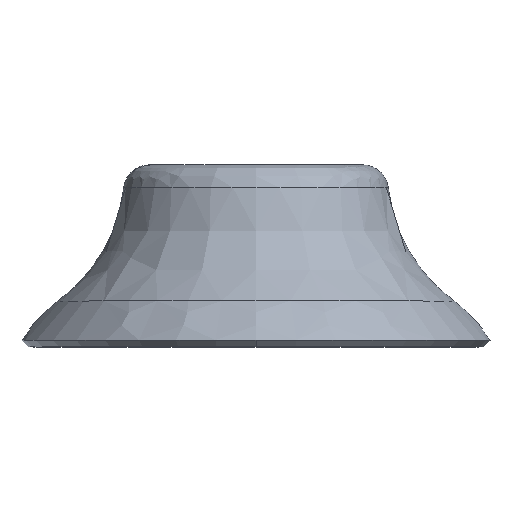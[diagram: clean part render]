
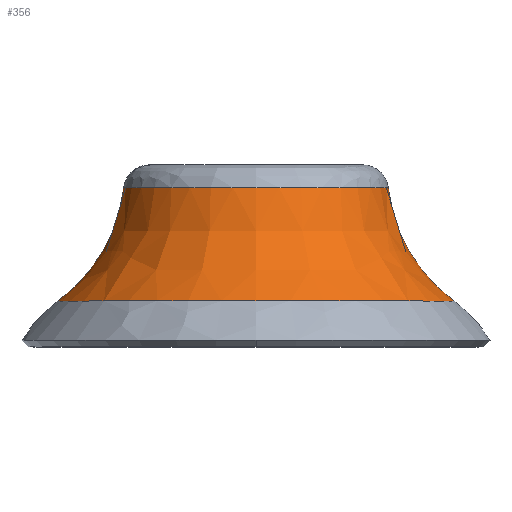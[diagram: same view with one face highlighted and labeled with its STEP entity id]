
A CAD part, top view. The second image highlights one B-rep face of the part: STEP entity #356.
In plain terms, the highlighted free-form (B-spline) face has degree [3, 3] with [4, 4] control points.
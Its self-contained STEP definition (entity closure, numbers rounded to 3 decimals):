
#1 = CARTESIAN_POINT ( 'NONE',  ( 0., -1.775, 0. ) ) ;
#24 = CARTESIAN_POINT ( 'NONE',  ( -10.179, -1.775, 0. ) ) ;
#30 = DIRECTION ( 'NONE',  ( 0., 0., -1. ) ) ;
#39 = AXIS2_PLACEMENT_3D ( 'NONE', #1, #557, #484 ) ;
#60 = VERTEX_POINT ( 'NONE', #24 ) ;
#84 = CARTESIAN_POINT ( 'NONE',  ( 12.419, -8.901, 0. ) ) ;
#104 = CARTESIAN_POINT ( 'NONE',  ( 10.179, -1.775, 0. ) ) ;
#135 = CARTESIAN_POINT ( 'NONE',  ( 16.299, -11.166, 32.597 ) ) ;
#139 = CARTESIAN_POINT ( 'NONE',  ( -12.419, -8.901, 0. ) ) ;
#149 =( BOUNDED_CURVE ( )  B_SPLINE_CURVE ( 3, ( #439, #856, #506, #190 ),
 .UNSPECIFIED., .F., .T. ) 
 B_SPLINE_CURVE_WITH_KNOTS ( ( 4, 4 ),
 ( 0.1, 0.9 ),
 .UNSPECIFIED. ) 
 CURVE ( )  GEOMETRIC_REPRESENTATION_ITEM ( )  RATIONAL_B_SPLINE_CURVE ( ( 0.977, 0.921, 0.921, 0.977 ) ) 
 REPRESENTATION_ITEM ( '' )  );
#154 = CARTESIAN_POINT ( 'NONE',  ( 10.101, -0.528, 20.202 ) ) ;
#190 = CARTESIAN_POINT ( 'NONE',  ( 15.252, -10.483, 0. ) ) ;
#202 = CARTESIAN_POINT ( 'NONE',  ( 10.158, -5.02, 0. ) ) ;
#203 = EDGE_LOOP ( 'NONE', ( #867, #775, #772, #310 ) ) ;
#205 = EDGE_CURVE ( 'NONE', #751, #371, #149, .T. ) ;
#207 = CARTESIAN_POINT ( 'NONE',  ( 16.299, -11.166, 0. ) ) ;
#236 =( BOUNDED_SURFACE ( )  B_SPLINE_SURFACE ( 3, 3, ( 
 ( #840, #632, #135, #207 ),
 ( #139, #565, #345, #84 ),
 ( #636, #420, #415, #202 ),
 ( #778, #707, #154, #278 ) ),
 .UNSPECIFIED., .F., .F., .F. ) 
 B_SPLINE_SURFACE_WITH_KNOTS ( ( 4, 4 ),
 ( 4, 4 ),
 ( 0., 1. ),
 ( 0., 1. ),
 .UNSPECIFIED. ) 
 GEOMETRIC_REPRESENTATION_ITEM ( )  RATIONAL_B_SPLINE_SURFACE ( (
 ( 1., 0.333, 0.333, 1.),
 ( 0.914, 0.305, 0.305, 0.914),
 ( 0.914, 0.305, 0.305, 0.914),
 ( 1., 0.333, 0.333, 1.) ) ) 
 REPRESENTATION_ITEM ( '' )  SURFACE ( )  );
#248 = CARTESIAN_POINT ( 'NONE',  ( 0., -10.483, 0. ) ) ;
#257 = VERTEX_POINT ( 'NONE', #327 ) ;
#278 = CARTESIAN_POINT ( 'NONE',  ( 10.101, -0.528, 0. ) ) ;
#301 = CARTESIAN_POINT ( 'NONE',  ( -12.372, -8.39, 0. ) ) ;
#310 = ORIENTED_EDGE ( 'NONE', *, *, #205, .F. ) ;
#327 = CARTESIAN_POINT ( 'NONE',  ( -15.252, -10.483, 0. ) ) ;
#345 = CARTESIAN_POINT ( 'NONE',  ( 12.419, -8.901, 24.838 ) ) ;
#356 = ADVANCED_FACE ( 'NONE', ( #712 ), #236, .F. ) ;
#371 = VERTEX_POINT ( 'NONE', #551 ) ;
#376 = CIRCLE ( 'NONE', #534, 15.252 ) ;
#378 = CARTESIAN_POINT ( 'NONE',  ( -10.579, -5.313, 0. ) ) ;
#390 = CIRCLE ( 'NONE', #39, 10.179 ) ;
#392 = CARTESIAN_POINT ( 'NONE',  ( -10.179, -1.775, 0. ) ) ;
#395 =( BOUNDED_CURVE ( )  B_SPLINE_CURVE ( 3, ( #525, #301, #378, #392 ),
 .UNSPECIFIED., .F., .T. ) 
 B_SPLINE_CURVE_WITH_KNOTS ( ( 4, 4 ),
 ( 0.1, 0.9 ),
 .UNSPECIFIED. ) 
 CURVE ( )  GEOMETRIC_REPRESENTATION_ITEM ( )  RATIONAL_B_SPLINE_CURVE ( ( 0.977, 0.921, 0.921, 0.977 ) ) 
 REPRESENTATION_ITEM ( '' )  );
#409 = EDGE_CURVE ( 'NONE', #60, #751, #390, .T. ) ;
#415 = CARTESIAN_POINT ( 'NONE',  ( 10.158, -5.02, 20.315 ) ) ;
#420 = CARTESIAN_POINT ( 'NONE',  ( -10.158, -5.02, 20.315 ) ) ;
#439 = CARTESIAN_POINT ( 'NONE',  ( 10.179, -1.775, 0. ) ) ;
#484 = DIRECTION ( 'NONE',  ( 0., 0., 1. ) ) ;
#506 = CARTESIAN_POINT ( 'NONE',  ( 12.372, -8.39, 0. ) ) ;
#525 = CARTESIAN_POINT ( 'NONE',  ( -15.252, -10.483, 0. ) ) ;
#534 = AXIS2_PLACEMENT_3D ( 'NONE', #248, #868, #30 ) ;
#551 = CARTESIAN_POINT ( 'NONE',  ( 15.252, -10.483, 0. ) ) ;
#557 = DIRECTION ( 'NONE',  ( 0., 1., 0. ) ) ;
#565 = CARTESIAN_POINT ( 'NONE',  ( -12.419, -8.901, 24.838 ) ) ;
#632 = CARTESIAN_POINT ( 'NONE',  ( -16.299, -11.166, 32.597 ) ) ;
#636 = CARTESIAN_POINT ( 'NONE',  ( -10.158, -5.02, 0. ) ) ;
#662 = EDGE_CURVE ( 'NONE', #371, #257, #376, .T. ) ;
#707 = CARTESIAN_POINT ( 'NONE',  ( -10.101, -0.528, 20.202 ) ) ;
#712 = FACE_OUTER_BOUND ( 'NONE', #203, .T. ) ;
#751 = VERTEX_POINT ( 'NONE', #104 ) ;
#772 = ORIENTED_EDGE ( 'NONE', *, *, #662, .F. ) ;
#775 = ORIENTED_EDGE ( 'NONE', *, *, #819, .F. ) ;
#778 = CARTESIAN_POINT ( 'NONE',  ( -10.101, -0.528, 0. ) ) ;
#819 = EDGE_CURVE ( 'NONE', #257, #60, #395, .T. ) ;
#840 = CARTESIAN_POINT ( 'NONE',  ( -16.299, -11.166, 0. ) ) ;
#856 = CARTESIAN_POINT ( 'NONE',  ( 10.579, -5.313, 0. ) ) ;
#867 = ORIENTED_EDGE ( 'NONE', *, *, #409, .F. ) ;
#868 = DIRECTION ( 'NONE',  ( 0., -1., 0. ) ) ;
